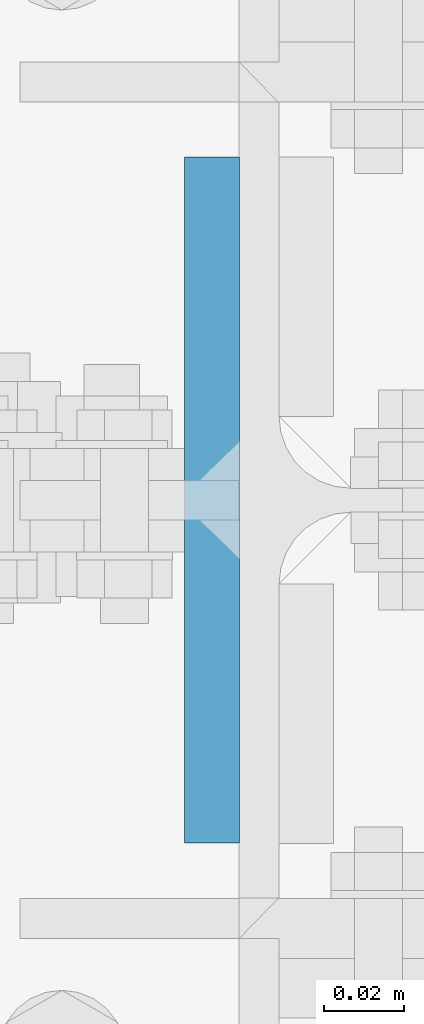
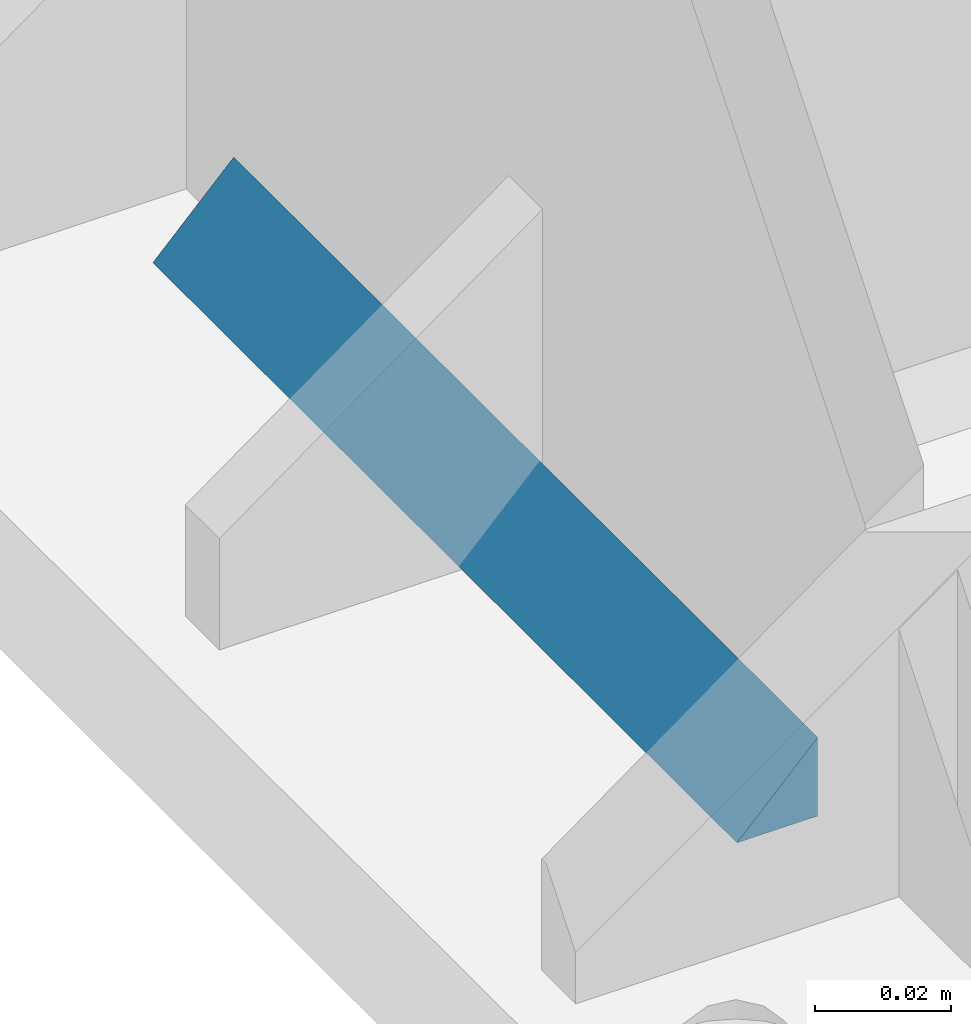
# One storey, part 44 of 251: 2 fasteners.
"""IFC4 building model written with IfcOpenShell, lengths in metres."""

import ifcopenshell
import ifcopenshell.guid

model = None  # the IFC model being written
_history = None  # IfcOwnerHistory: only IFC2X3 demands one
_inside = {}  # id of a spatial element -> (the spatial element, [elements in it])
_under = {}  # id of a project, library or spatial element -> (it, [spatial elements below it])
_declared = {}  # id of a project -> (the project, [libraries it declares])
_typed = {}  # id of a type object -> (the type object, [elements of that type])
_made_of = {}  # id of a material, layer set ... -> (it, [elements and type objects made of it])


def new_model(schema):
    """Start an empty IFC model of exactly this schema.

    Asked for "IFC4X3", IfcOpenShell would pick the latest addendum, in which some entities
    have other attributes; the version numbers below select the first issue.
    IFC2X3 requires an IfcOwnerHistory on every rooted entity: one is made here for all.
    """
    global model, _history
    if schema == "IFC4X3":
        model = ifcopenshell.file(schema_version=(4, 3, 0, 0))
    else:
        model = ifcopenshell.file(schema=schema)
    _inside.clear()
    _under.clear()
    _declared.clear()
    _typed.clear()
    _made_of.clear()
    _history = None
    if model.schema == "IFC2X3":
        org = make("IfcOrganization", Name="unknown")
        user = make(
            "IfcPersonAndOrganization",
            ThePerson=make("IfcPerson", FamilyName="unknown"),
            TheOrganization=org,
        )
        app = make(
            "IfcApplication",
            ApplicationDeveloper=org,
            Version="unknown",
            ApplicationFullName="unknown",
            ApplicationIdentifier="unknown",
        )
        _history = make(
            "IfcOwnerHistory",
            OwningUser=user,
            OwningApplication=app,
            ChangeAction="ADDED",
            CreationDate=0,
        )
    return model


def make(cls, **values):
    """One entity of the class cls with the attributes given. An attribute that is None is left unset."""
    return model.create_entity(
        cls, **{name: value for name, value in values.items() if value is not None}
    )


def rooted(cls, **values):
    """An entity with a GlobalId (a new one), such as an element, a storey or a relation."""
    return make(cls, GlobalId=ifcopenshell.guid.new(), OwnerHistory=_history, **values)


def si_unit(unit_type, name, prefix=None):
    """IfcSIUnit, for example si_unit("LENGTHUNIT", "METRE", prefix="MILLI")."""
    return make("IfcSIUnit", UnitType=unit_type, Prefix=prefix, Name=name)


def assignment(units):
    """IfcUnitAssignment: the units of a project."""
    return None if units is None else make("IfcUnitAssignment", Units=units)


def point(xyz):
    """IfcCartesianPoint."""
    return None if xyz is None else make("IfcCartesianPoint", Coordinates=xyz)


def direction(xyz):
    """IfcDirection."""
    return None if xyz is None else make("IfcDirection", DirectionRatios=xyz)


def frame(location, z_axis=None, x_axis=None):
    """IfcAxis2Placement3D, a coordinate frame: its origin and axes. An axis left out is left unset."""
    return make(
        "IfcAxis2Placement3D",
        Location=point(location),
        Axis=direction(z_axis),
        RefDirection=direction(x_axis),
    )


def origin_with_axes():
    """The frame at (0, 0, 0) with the z axis (0, 0, 1) and the x axis (1, 0, 0) written out."""
    return frame((0.0, 0.0, 0.0), z_axis=(0.0, 0.0, 1.0), x_axis=(1.0, 0.0, 0.0))


def place(relative_to, where):
    """IfcLocalPlacement: puts the frame where relative to a parent placement (None: the world)."""
    return make(
        "IfcLocalPlacement", PlacementRelTo=relative_to, RelativePlacement=where
    )


def context(
    kind, dimensions, precision=None, world=None, true_north=None, identifier=None
):
    """IfcGeometricRepresentationContext, for example the 3D "Model" context."""
    return make(
        "IfcGeometricRepresentationContext",
        ContextIdentifier=identifier,
        ContextType=kind,
        CoordinateSpaceDimension=dimensions,
        Precision=precision,
        WorldCoordinateSystem=world,
        TrueNorth=true_north,
    )


def project(units=None, contexts=None):
    """IfcProject with its units and contexts."""
    return rooted(
        "IfcProject",
        Name="project",
        RepresentationContexts=contexts,
        UnitsInContext=assignment(units),
    )


def spatial(cls, under=None, at=None, **own):
    """A site, building, storey or space (cls), placed at a placement, below another one or the project."""
    s = rooted(cls, ObjectPlacement=at, **own)
    if under is not None:
        _under.setdefault(under.id(), (under, []))[1].append(s)
    return s


def polyline(points):
    """IfcPolyline through the points."""
    return make("IfcPolyline", Points=[point(p) for p in points])


def outline(outer, holes=None, kind="AREA"):
    """IfcArbitraryClosedProfileDef: a profile drawn as a closed curve; with holes, ...WithVoids."""
    if holes is None:
        return make("IfcArbitraryClosedProfileDef", ProfileType=kind, OuterCurve=outer)
    return make(
        "IfcArbitraryProfileDefWithVoids",
        ProfileType=kind,
        OuterCurve=outer,
        InnerCurves=holes,
    )


def extrude(swept, where, along, depth):
    """IfcExtrudedAreaSolid: the profile swept, set in the frame where, extruded along a direction by depth."""
    return make(
        "IfcExtrudedAreaSolid",
        SweptArea=swept,
        Position=where,
        ExtrudedDirection=direction(along),
        Depth=depth,
    )


def shape(context_of_items, identifier, shape_type, items):
    """IfcShapeRepresentation: the items that make up one representation, for example the "Body"."""
    return make(
        "IfcShapeRepresentation",
        ContextOfItems=context_of_items,
        RepresentationIdentifier=identifier,
        RepresentationType=shape_type,
        Items=items,
    )


def made_of(thing, what):
    """Note that an element or type object is made of a material, layer set ...; save() writes the relation."""
    if what is not None:
        _made_of.setdefault(what.id(), (what, []))[1].append(thing)
    return thing


def type_object(cls, material=None, **own):
    """A type object (cls), such as IfcWallType, which elements share."""
    return made_of(rooted(cls, **own), material)


def element(
    cls,
    number,
    at=None,
    inside=None,
    cuts=None,
    type_object=None,
    material=None,
    context=None,
    identifier="Body",
    shape_type=None,
    held_by="IfcProductDefinitionShape",
    body=None,
    shapes=None,
    **own,
):
    """One element of the class cls, such as IfcWall. Its Tag is "e" and its number.

    at: its placement. inside: the storey or other place that contains it. cuts: it is an
    opening in that element (IfcRelVoidsElement). A single representation is given by context,
    identifier, shape_type and body (its items); several are given by shapes. held_by: the class
    of the entity that holds the representations. save() writes the other relations.
    """
    e = rooted(cls, Tag="e%d" % number, ObjectPlacement=at, **own)
    if body is not None:
        shapes = [shape(context, identifier, shape_type, body)]
    if shapes is not None:
        e.Representation = make(held_by, Representations=shapes)
    if inside is not None:
        _inside.setdefault(inside.id(), (inside, []))[1].append(e)
    if cuts is not None:
        rooted(
            "IfcRelVoidsElement", RelatingBuildingElement=cuts, RelatedOpeningElement=e
        )
    if type_object is not None:
        _typed.setdefault(type_object.id(), (type_object, []))[1].append(e)
    return made_of(e, material)


def aggregate(whole, parts):
    """IfcRelAggregates: a whole, such as a stair, and the parts it consists of."""
    return rooted("IfcRelAggregates", RelatingObject=whole, RelatedObjects=parts)


def save(model, path):
    """Write the relations noted so far, then the file.

    IfcRelAggregates (storeys below a building ...), IfcRelContainedInSpatialStructure (elements
    in a storey), IfcRelDefinesByType, IfcRelAssociatesMaterial and IfcRelDeclares: one each for
    every whole, place, type object, material and project.
    """
    for whole, parts in _under.values():
        aggregate(whole, parts)
    for where, things in _inside.values():
        rooted(
            "IfcRelContainedInSpatialStructure",
            RelatedElements=things,
            RelatingStructure=where,
        )
    for kind, things in _typed.values():
        rooted("IfcRelDefinesByType", RelatedObjects=things, RelatingType=kind)
    for what, things in _made_of.values():
        rooted("IfcRelAssociatesMaterial", RelatedObjects=things, RelatingMaterial=what)
    for by, libraries in _declared.values():
        rooted("IfcRelDeclares", RelatingContext=by, RelatedDefinitions=libraries)
    model.write(path)


model = new_model("IFC4")

# Units and contexts
model_context = context("Model", 3, precision=1e-05, world=origin_with_axes())
ifc_project = project(units=[si_unit("LENGTHUNIT", "METRE"), si_unit("AREAUNIT", "SQUARE_METRE"), si_unit("VOLUMEUNIT", "CUBIC_METRE"), si_unit("MASSUNIT", "GRAM", prefix="KILO"), si_unit("TIMEUNIT", "SECOND"), si_unit("PLANEANGLEUNIT", "RADIAN"), si_unit("SOLIDANGLEUNIT", "STERADIAN"), si_unit("THERMODYNAMICTEMPERATUREUNIT", "DEGREE_CELSIUS")], contexts=[model_context])

# Site, building, storey
placement_1 = place(None, origin_with_axes())
site = spatial("IfcSite", under=ifc_project, at=placement_1, Name="Italia", CompositionType="ELEMENT")
building = spatial("IfcBuilding", under=site, at=placement_1, Name="Deposito", CompositionType="ELEMENT")
storey = spatial("IfcBuildingStorey", under=building, at=placement_1, Name="Storey 0", CompositionType="ELEMENT", Elevation=0.0)

# Fasteners
fastener_type_1 = type_object("IfcFastenerType", Name="Collegamenti 0014_-001 0016_-054 0018_-056 0032_-002 0033_-058 0047_-003 0048_-060 0062_-004 0063_-005 0079_-008", PredefinedType="WELD")
placement_2 = place(placement_1, origin_with_axes())
fastener_1_placement = place(placement_2, origin_with_axes())
element("IfcFastener", 1, at=fastener_1_placement, inside=storey, type_object=fastener_type_1, Name="Collegamenti 0014_-001 0016_-054 0018_-056 0032_-002 0033_-058 0047_-003 0048_-060 0062_-004 0063_-005 0079_-008", context=model_context, shape_type="SweptSolid", body=[
    extrude(outline(polyline([(0.0, 0.0), (0.0137482, 0.0141734), (0.0137482, 0.0), (0.0, 0.0)])), frame((19.8913, 15.0861, 0.07495), z_axis=(0.0, -1.0, 0.0), x_axis=(1.0, 0.0, 0.0)), (0.0, 0.0, 1.0), 0.1721),
])
fastener_type_2 = type_object("IfcFastenerType", Name="Collegamenti 0014_-001 0016_-054 0018_-056 0032_-002 0033_-058 0047_-003 0048_-060 0062_-004 0063_-005 0079_-008", PredefinedType="WELD")
fastener_2_placement = place(placement_2, origin_with_axes())
element("IfcFastener", 2, at=fastener_2_placement, inside=storey, type_object=fastener_type_2, Name="Collegamenti 0014_-001 0016_-054 0018_-056 0032_-002 0033_-058 0047_-003 0048_-060 0062_-004 0063_-005 0079_-008", context=model_context, shape_type="SweptSolid", body=[
    extrude(outline(polyline([(0.0, 0.0), (0.0137482, 0.0141734), (0.0137482, 0.0), (0.0, 0.0)])), frame((19.8913, 15.0861, 0.07495), z_axis=(0.0, -1.0, 0.0), x_axis=(1.0, 0.0, 0.0)), (0.0, 0.0, 1.0), 0.1721),
])

save(model, "model.ifc")
